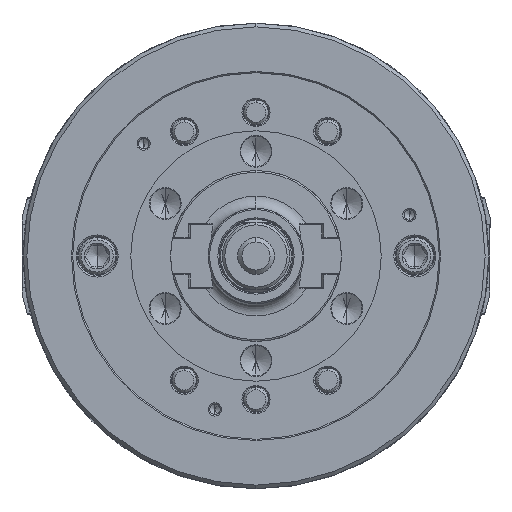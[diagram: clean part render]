
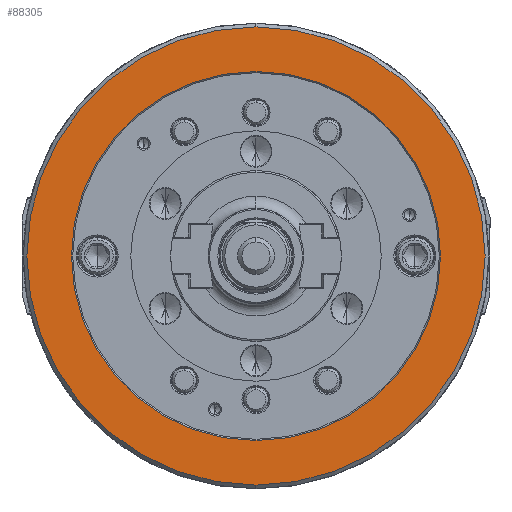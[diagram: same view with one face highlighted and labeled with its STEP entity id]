
A CAD part, left-side view. The second image highlights one B-rep face of the part: STEP entity #88305.
In plain terms, the highlighted planar face has unit normal (-1, 0, 0).
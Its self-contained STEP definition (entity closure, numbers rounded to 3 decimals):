
#2827 = EDGE_CURVE ( 'NONE', #54359, #121961, #119376, .T. ) ;
#3107 = ORIENTED_EDGE ( 'NONE', *, *, #75522, .F. ) ;
#3684 = CARTESIAN_POINT ( 'NONE',  ( -114., 0., 187.5 ) ) ;
#13597 = DIRECTION ( 'NONE',  ( 0., 0., -1. ) ) ;
#14805 = PLANE ( 'NONE',  #91754 ) ;
#26436 = DIRECTION ( 'NONE',  ( 0., 0., -1. ) ) ;
#26835 = ORIENTED_EDGE ( 'NONE', *, *, #88445, .T. ) ;
#29372 = CIRCLE ( 'NONE', #98480, 187.5 ) ;
#32134 = FACE_BOUND ( 'NONE', #83340, .T. ) ;
#41651 = EDGE_CURVE ( 'NONE', #60654, #65161, #29372, .T. ) ;
#42447 = AXIS2_PLACEMENT_3D ( 'NONE', #76534, #56146, #95659 ) ;
#42641 = DIRECTION ( 'NONE',  ( 1., 0., 0. ) ) ;
#48568 = CARTESIAN_POINT ( 'NONE',  ( -114., 0., 151. ) ) ;
#52502 = DIRECTION ( 'NONE',  ( 1., 0., 0. ) ) ;
#53150 = DIRECTION ( 'NONE',  ( 0., 0., -1. ) ) ;
#54359 = VERTEX_POINT ( 'NONE', #74302 ) ;
#56146 = DIRECTION ( 'NONE',  ( 1., 0., 0. ) ) ;
#56328 = ORIENTED_EDGE ( 'NONE', *, *, #2827, .T. ) ;
#60654 = VERTEX_POINT ( 'NONE', #3684 ) ;
#60790 = EDGE_LOOP ( 'NONE', ( #3107, #106985 ) ) ;
#65161 = VERTEX_POINT ( 'NONE', #91927 ) ;
#74302 = CARTESIAN_POINT ( 'NONE',  ( -114., 0., -151. ) ) ;
#75522 = EDGE_CURVE ( 'NONE', #65161, #60654, #98522, .T. ) ;
#76534 = CARTESIAN_POINT ( 'NONE',  ( -114., 0., 0. ) ) ;
#79114 = FACE_OUTER_BOUND ( 'NONE', #60790, .T. ) ;
#79707 = CARTESIAN_POINT ( 'NONE',  ( -114., 0., 0. ) ) ;
#80345 = DIRECTION ( 'NONE',  ( 0., 0., -1. ) ) ;
#81479 = DIRECTION ( 'NONE',  ( 1., 0., 0. ) ) ;
#83340 = EDGE_LOOP ( 'NONE', ( #26835, #56328 ) ) ;
#88305 = ADVANCED_FACE ( 'NONE', ( #79114, #32134 ), #14805, .F. ) ;
#88445 = EDGE_CURVE ( 'NONE', #121961, #54359, #93692, .T. ) ;
#88997 = AXIS2_PLACEMENT_3D ( 'NONE', #79707, #42641, #80345 ) ;
#90847 = DIRECTION ( 'NONE',  ( 1., 0., 0. ) ) ;
#91754 = AXIS2_PLACEMENT_3D ( 'NONE', #98269, #52502, #13597 ) ;
#91927 = CARTESIAN_POINT ( 'NONE',  ( -114., 0., -187.5 ) ) ;
#93692 = CIRCLE ( 'NONE', #42447, 151. ) ;
#95659 = DIRECTION ( 'NONE',  ( 0., 0., -1. ) ) ;
#98269 = CARTESIAN_POINT ( 'NONE',  ( -114., -187.5, 0. ) ) ;
#98480 = AXIS2_PLACEMENT_3D ( 'NONE', #119242, #90847, #53150 ) ;
#98522 = CIRCLE ( 'NONE', #112368, 187.5 ) ;
#101839 = CARTESIAN_POINT ( 'NONE',  ( -114., 0., 0. ) ) ;
#106985 = ORIENTED_EDGE ( 'NONE', *, *, #41651, .F. ) ;
#112368 = AXIS2_PLACEMENT_3D ( 'NONE', #101839, #81479, #26436 ) ;
#119242 = CARTESIAN_POINT ( 'NONE',  ( -114., 0., 0. ) ) ;
#119376 = CIRCLE ( 'NONE', #88997, 151. ) ;
#121961 = VERTEX_POINT ( 'NONE', #48568 ) ;
